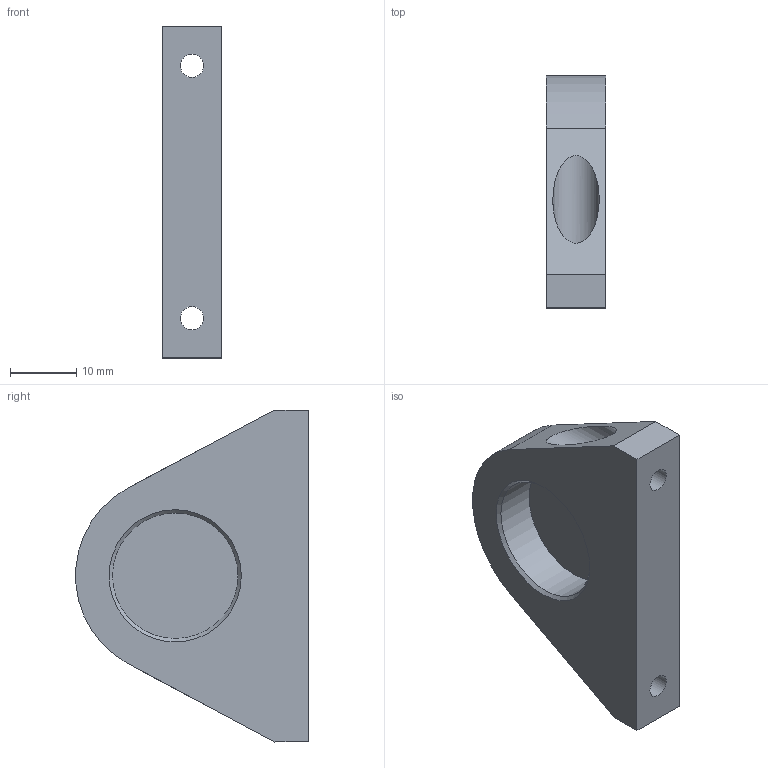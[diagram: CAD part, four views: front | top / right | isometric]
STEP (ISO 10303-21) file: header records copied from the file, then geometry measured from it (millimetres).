
FILE_DESCRIPTION(/* description */ (''),/* implementation_level */ '2;1');
FILE_NAME(/* name */ '/Users/simonhu/OneDrive - FH JOANNEUM/5Semsester/Projekt/3D/turret_final/end_bearing.step',/* time_stamp */ '2022-01-27T19:33:36+01:00',/* author */ (''),/* organization */ (''),/* preprocessor_version */ 'ST-DEVELOPER v18.1',/* originating_system */ 'Autodesk Translation Framework v10.13.0.1454',/* authorisation */ '');
FILE_SCHEMA (('AUTOMOTIVE_DESIGN { 1 0 10303 214 3 1 1 }'));
Length unit declared in the file: millimetre
Products named in the file (1): baus_mount
Bounding box: 9 x 34.95 x 49.94 mm (x, y, z)
Volume: 8269.6 mm3; surface area: 4659.1 mm2
Topology: 1 solids, 1 shells, 17 faces, 35 edges, 23 vertices
Faces by surface type: plane 10, cylinder 6, cone 1
Full cylindrical faces by diameter (mm): 3.5 x2, 7 x2, 18.9 x1
Entity records: 495 total; most frequent: DIRECTION 84, CARTESIAN_POINT 76, ORIENTED_EDGE 70, EDGE_CURVE 35, AXIS2_PLACEMENT_3D 31, EDGE_LOOP 24, VERTEX_POINT 23, LINE 22
